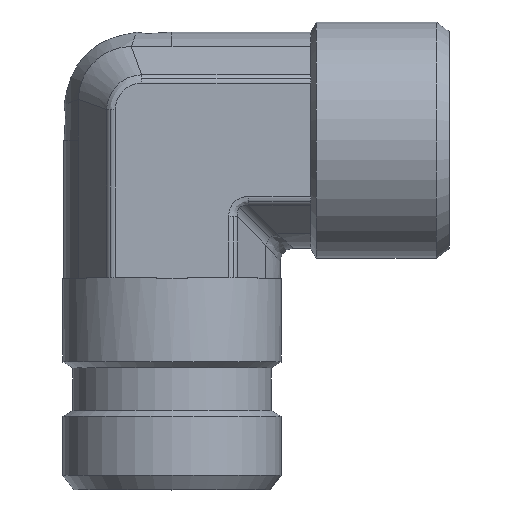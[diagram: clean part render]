
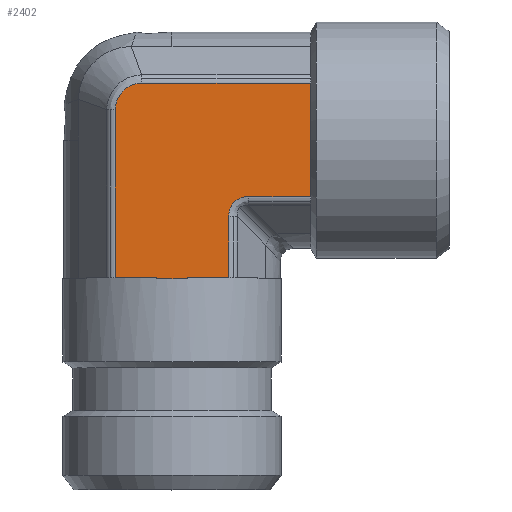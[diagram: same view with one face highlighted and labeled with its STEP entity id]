
A CAD part, top view. The second image highlights one B-rep face of the part: STEP entity #2402.
In plain terms, the highlighted planar face has unit normal (0, 0, 1) as drawn and (0, -1, 0) by its records, which use the part's own axes.
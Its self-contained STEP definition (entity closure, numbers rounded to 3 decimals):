
#361=CARTESIAN_POINT('',(7.119,-16.375,8.588));
#362=VERTEX_POINT('',#361);
#370=CARTESIAN_POINT('',(16.35,-16.375,8.588));
#371=VERTEX_POINT('',#370);
#372=CARTESIAN_POINT('',(7.119,-16.375,8.588));
#373=DIRECTION('',(1.0,0.0,0.0));
#374=VECTOR('',#373,9.231);
#375=LINE('',#372,#374);
#376=EDGE_CURVE('',#362,#371,#375,.T.);
#443=CARTESIAN_POINT('',(-13.088,-16.375,-4.612));
#444=VERTEX_POINT('',#443);
#452=CARTESIAN_POINT('',(-13.088,-16.375,21.0));
#453=VERTEX_POINT('',#452);
#454=CARTESIAN_POINT('',(-13.088,-16.375,-4.612));
#455=DIRECTION('',(0.0,0.0,1.0));
#456=VECTOR('',#455,25.612);
#457=LINE('',#454,#456);
#458=EDGE_CURVE('',#444,#453,#457,.T.);
#845=CARTESIAN_POINT('',(16.35,-16.375,2.295));
#846=VERTEX_POINT('',#845);
#854=CARTESIAN_POINT('',(16.5,-16.375,2.295));
#855=VERTEX_POINT('',#854);
#856=CARTESIAN_POINT('',(16.5,-16.375,2.295));
#857=DIRECTION('',(-1.0,0.0,0.));
#858=VECTOR('',#857,0.15);
#859=LINE('',#856,#858);
#860=EDGE_CURVE('',#855,#846,#859,.T.);
#862=CARTESIAN_POINT('',(16.5,-16.375,-2.295));
#863=VERTEX_POINT('',#862);
#871=CARTESIAN_POINT('',(16.35,-16.375,-2.295));
#872=VERTEX_POINT('',#871);
#873=CARTESIAN_POINT('',(16.35,-16.375,-2.295));
#874=DIRECTION('',(1.0,0.0,0.));
#875=VECTOR('',#874,0.15);
#876=LINE('',#873,#875);
#877=EDGE_CURVE('',#872,#863,#876,.T.);
#1593=CARTESIAN_POINT('',(-4.5,-16.375,21.0));
#1594=VERTEX_POINT('',#1593);
#1595=CARTESIAN_POINT('',(-4.5,-16.375,21.0));
#1596=DIRECTION('',(-1.0,0.0,0.0));
#1597=VECTOR('',#1596,8.588);
#1598=LINE('',#1595,#1597);
#1599=EDGE_CURVE('',#1594,#453,#1598,.T.);
#2105=CARTESIAN_POINT('',(16.35,-16.375,-8.588));
#2106=VERTEX_POINT('',#2105);
#2107=CARTESIAN_POINT('',(16.35,-16.375,-8.588));
#2108=DIRECTION('',(0.0,0.0,1.0));
#2109=VECTOR('',#2108,6.293);
#2110=LINE('',#2107,#2109);
#2111=EDGE_CURVE('',#2106,#872,#2110,.T.);
#2145=CARTESIAN_POINT('',(16.35,-16.375,2.295));
#2146=DIRECTION('',(0.0,0.0,1.0));
#2147=VECTOR('',#2146,6.293);
#2148=LINE('',#2145,#2147);
#2149=EDGE_CURVE('',#846,#371,#2148,.T.);
#2327=CARTESIAN_POINT('',(-9.112,-16.375,-8.588));
#2328=VERTEX_POINT('',#2327);
#2329=CARTESIAN_POINT('',(16.35,-16.375,-8.588));
#2330=DIRECTION('',(-1.0,0.0,0.0));
#2331=VECTOR('',#2330,25.462);
#2332=LINE('',#2329,#2331);
#2333=EDGE_CURVE('',#2106,#2328,#2332,.T.);
#2345=CARTESIAN_POINT('',(-4.5,-16.375,-3.175));
#2346=DIRECTION('',(0.0,-1.0,0.0));
#2347=DIRECTION('',(0.0,0.0,-1.0));
#2348=AXIS2_PLACEMENT_3D('',#2345,#2346,#2347);
#2349=PLANE('',#2348);
#2350=ORIENTED_EDGE('',*,*,#2111,.T.);
#2351=ORIENTED_EDGE('',*,*,#877,.T.);
#2352=CARTESIAN_POINT('',(16.5,-16.375,-2.295));
#2353=DIRECTION('',(0.0,0.0,1.0));
#2354=VECTOR('',#2353,4.589);
#2355=LINE('',#2352,#2354);
#2356=EDGE_CURVE('',#863,#855,#2355,.T.);
#2357=ORIENTED_EDGE('',*,*,#2356,.T.);
#2358=ORIENTED_EDGE('',*,*,#860,.T.);
#2359=ORIENTED_EDGE('',*,*,#2149,.T.);
#2360=ORIENTED_EDGE('',*,*,#376,.F.);
#2361=CARTESIAN_POINT('',(4.088,-16.375,11.619));
#2362=VERTEX_POINT('',#2361);
#2363=CARTESIAN_POINT('',(8.13,-16.375,12.63));
#2364=DIRECTION('',(0.,-1.0,0.));
#2365=DIRECTION('',(-0.707,0.,-0.707));
#2366=AXIS2_PLACEMENT_3D('',#2363,#2364,#2365);
#2367=ELLIPSE('',#2366,4.518,3.5);
#2368=EDGE_CURVE('',#2362,#362,#2367,.T.);
#2369=ORIENTED_EDGE('',*,*,#2368,.F.);
#2370=CARTESIAN_POINT('',(4.088,-16.375,21.0));
#2371=VERTEX_POINT('',#2370);
#2372=CARTESIAN_POINT('',(4.088,-16.375,21.0));
#2373=DIRECTION('',(0.0,0.0,-1.0));
#2374=VECTOR('',#2373,9.381);
#2375=LINE('',#2372,#2374);
#2376=EDGE_CURVE('',#2371,#2362,#2375,.T.);
#2377=ORIENTED_EDGE('',*,*,#2376,.F.);
#2378=CARTESIAN_POINT('',(4.088,-16.375,21.0));
#2379=DIRECTION('',(-1.0,0.0,0.0));
#2380=VECTOR('',#2379,8.588);
#2381=LINE('',#2378,#2380);
#2382=EDGE_CURVE('',#2371,#1594,#2381,.T.);
#2383=ORIENTED_EDGE('',*,*,#2382,.T.);
#2384=ORIENTED_EDGE('',*,*,#1599,.T.);
#2385=ORIENTED_EDGE('',*,*,#458,.F.);
#2386=CARTESIAN_POINT('',(-13.088,-16.375,-4.612));
#2387=CARTESIAN_POINT('',(-13.088,-16.375,-4.871));
#2388=CARTESIAN_POINT('',(-13.062,-16.375,-5.132));
#2389=CARTESIAN_POINT('',(-12.929,-16.375,-5.798));
#2390=CARTESIAN_POINT('',(-12.783,-16.375,-6.191));
#2391=CARTESIAN_POINT('',(-12.251,-16.375,-7.137));
#2392=CARTESIAN_POINT('',(-11.777,-16.375,-7.633));
#2393=CARTESIAN_POINT('',(-10.581,-16.375,-8.379));
#2394=CARTESIAN_POINT('',(-9.847,-16.375,-8.588));
#2395=CARTESIAN_POINT('',(-9.112,-16.375,-8.588));
#2396=B_SPLINE_CURVE_WITH_KNOTS('',3,(#2386,#2387,#2388,#2389,#2390,#2391,#2392,#2393,#2394,#2395),.UNSPECIFIED.,.F.,.U.,(4,2,2,2,4),(-6.21,-5.434,-4.192,-2.205,0.0),.UNSPECIFIED.);
#2397=EDGE_CURVE('',#2328,#444,#2396,.F.);
#2398=ORIENTED_EDGE('',*,*,#2397,.F.);
#2399=ORIENTED_EDGE('',*,*,#2333,.F.);
#2400=EDGE_LOOP('',(#2350,#2351,#2357,#2358,#2359,#2360,#2369,#2377,#2383,#2384,#2385,#2398,#2399));
#2401=FACE_OUTER_BOUND('',#2400,.T.);
#2402=ADVANCED_FACE('',(#2401),#2349,.T.);
